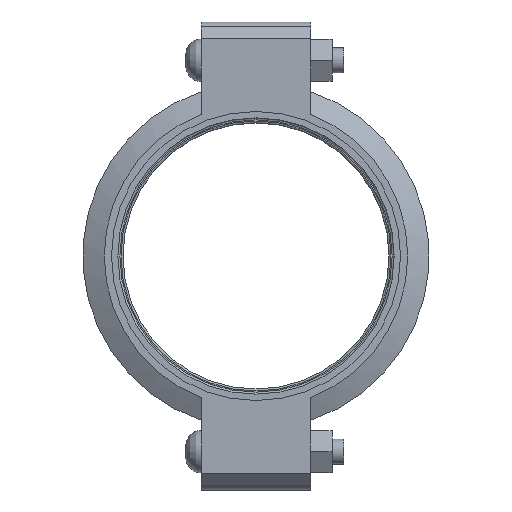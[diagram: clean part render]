
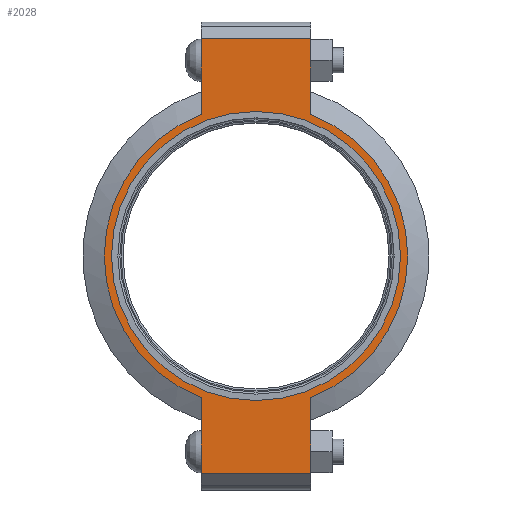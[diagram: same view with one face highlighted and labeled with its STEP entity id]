
A CAD part, left-side view. The second image highlights one B-rep face of the part: STEP entity #2028.
In plain terms, the highlighted planar face has unit normal (-1, 0, 0) as drawn and (0, 0, 1) by its records, which use the part's own axes.
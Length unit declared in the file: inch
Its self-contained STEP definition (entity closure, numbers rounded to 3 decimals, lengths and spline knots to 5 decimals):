
#134=LINE('',#3621,#233);
#142=LINE('',#3657,#241);
#149=LINE('',#3678,#248);
#158=LINE('',#3710,#257);
#159=LINE('',#3714,#258);
#160=LINE('',#3716,#259);
#233=VECTOR('',#2974,0.3937);
#241=VECTOR('',#2990,0.3937);
#248=VECTOR('',#3009,0.3937);
#257=VECTOR('',#3034,0.3937);
#258=VECTOR('',#3039,0.3937);
#259=VECTOR('',#3040,0.3937);
#320=FACE_BOUND('',#594,.T.);
#367=PLANE('',#2398);
#464=FACE_OUTER_BOUND('',#593,.T.);
#593=EDGE_LOOP('',(#1755,#1756,#1757,#1758,#1759,#1760,#1761,#1762));
#594=EDGE_LOOP('',(#1763));
#745=CIRCLE('',#2340,4.3125);
#771=CIRCLE('',#2399,4.53);
#772=CIRCLE('',#2400,4.53);
#900=VERTEX_POINT('',#3437);
#943=VERTEX_POINT('',#3618);
#944=VERTEX_POINT('',#3620);
#955=VERTEX_POINT('',#3652);
#956=VERTEX_POINT('',#3656);
#963=VERTEX_POINT('',#3675);
#964=VERTEX_POINT('',#3677);
#974=VERTEX_POINT('',#3713);
#975=VERTEX_POINT('',#3715);
#1141=EDGE_CURVE('',#900,#900,#745,.T.);
#1202=EDGE_CURVE('',#944,#943,#134,.T.);
#1216=EDGE_CURVE('',#956,#955,#142,.T.);
#1226=EDGE_CURVE('',#964,#963,#149,.T.);
#1241=EDGE_CURVE('',#956,#943,#158,.T.);
#1242=EDGE_CURVE('',#955,#964,#771,.T.);
#1243=EDGE_CURVE('',#974,#963,#159,.T.);
#1244=EDGE_CURVE('',#974,#975,#160,.T.);
#1245=EDGE_CURVE('',#975,#944,#772,.T.);
#1755=ORIENTED_EDGE('',*,*,#1241,.F.);
#1756=ORIENTED_EDGE('',*,*,#1216,.T.);
#1757=ORIENTED_EDGE('',*,*,#1242,.T.);
#1758=ORIENTED_EDGE('',*,*,#1226,.T.);
#1759=ORIENTED_EDGE('',*,*,#1243,.F.);
#1760=ORIENTED_EDGE('',*,*,#1244,.T.);
#1761=ORIENTED_EDGE('',*,*,#1245,.T.);
#1762=ORIENTED_EDGE('',*,*,#1202,.T.);
#1763=ORIENTED_EDGE('',*,*,#1141,.T.);
#2028=ADVANCED_FACE('',(#464,#320),#367,.T.);
#2340=AXIS2_PLACEMENT_3D('',#3439,#2850,#2851);
#2398=AXIS2_PLACEMENT_3D('',#3711,#3035,#3036);
#2399=AXIS2_PLACEMENT_3D('',#3712,#3037,#3038);
#2400=AXIS2_PLACEMENT_3D('',#3717,#3041,#3042);
#2850=DIRECTION('center_axis',(0.,0.,-1.));
#2851=DIRECTION('ref_axis',(1.,0.,0.));
#2974=DIRECTION('',(1.,0.,0.));
#2990=DIRECTION('',(-1.,0.,0.));
#3009=DIRECTION('',(-1.,0.,0.));
#3034=DIRECTION('',(0.,-1.,0.));
#3035=DIRECTION('center_axis',(0.,0.,1.));
#3036=DIRECTION('ref_axis',(-1.,0.,0.));
#3037=DIRECTION('center_axis',(0.,0.,1.));
#3038=DIRECTION('ref_axis',(1.,0.,0.));
#3039=DIRECTION('',(0.,1.,0.));
#3040=DIRECTION('',(1.,0.,0.));
#3041=DIRECTION('center_axis',(0.,0.,1.));
#3042=DIRECTION('ref_axis',(1.,0.,0.));
#3437=CARTESIAN_POINT('',(-4.3125,0.,1.16));
#3439=CARTESIAN_POINT('Origin',(0.,0.,1.16));
#3618=CARTESIAN_POINT('',(6.485,-1.63,1.16));
#3620=CARTESIAN_POINT('',(4.22658,-1.63,1.16));
#3621=CARTESIAN_POINT('',(6.985,-1.63,1.16));
#3652=CARTESIAN_POINT('',(4.22658,1.63,1.16));
#3656=CARTESIAN_POINT('',(6.485,1.63,1.16));
#3657=CARTESIAN_POINT('',(-6.985,1.63,1.16));
#3675=CARTESIAN_POINT('',(-6.485,1.63,1.16));
#3677=CARTESIAN_POINT('',(-4.22658,1.63,1.16));
#3678=CARTESIAN_POINT('',(-6.985,1.63,1.16));
#3710=CARTESIAN_POINT('',(6.485,-0.815,1.16));
#3711=CARTESIAN_POINT('Origin',(0.,0.,
1.16));
#3712=CARTESIAN_POINT('Origin',(0.,0.,1.16));
#3713=CARTESIAN_POINT('',(-6.485,-1.63,1.16));
#3714=CARTESIAN_POINT('',(-6.485,0.815,1.16));
#3715=CARTESIAN_POINT('',(-4.22658,-1.63,1.16));
#3716=CARTESIAN_POINT('',(6.985,-1.63,1.16));
#3717=CARTESIAN_POINT('Origin',(0.,0.,1.16));
